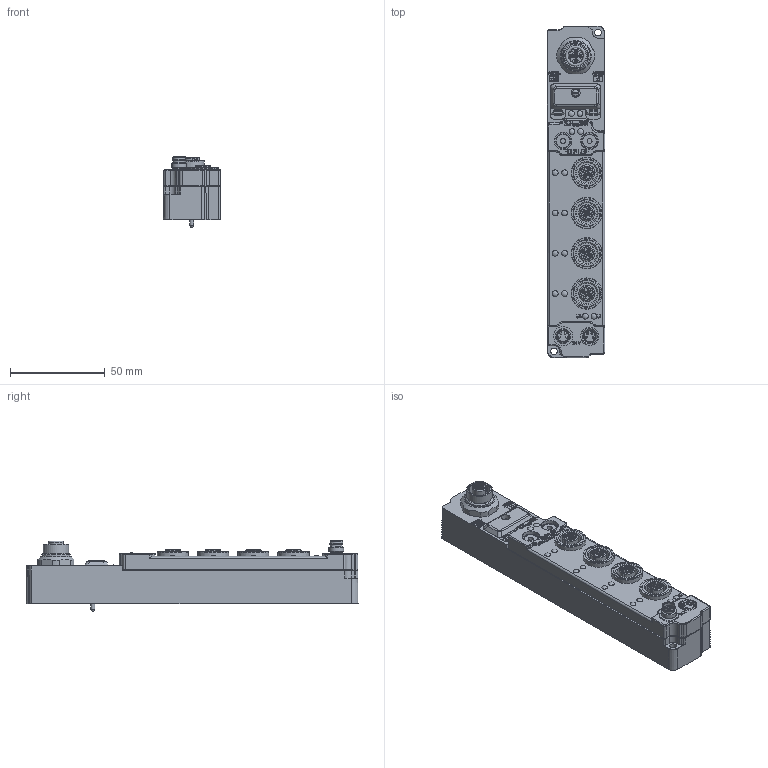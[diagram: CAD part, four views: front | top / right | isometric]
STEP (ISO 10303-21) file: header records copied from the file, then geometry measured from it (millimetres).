
FILE_DESCRIPTION((''),'2;1');
FILE_NAME('C:\TurckZip\SDPL-0404D-0004.stp','2011-07-05T11:16:34',('IKOROL'),(''),'Autodesk Inventor 2010','Autodesk Inventor 2010','');
FILE_SCHEMA(('CONFIG_CONTROL_DESIGN'));
Length unit declared in the file: millimetre
Products named in the file (1): Part7
Bounding box: 30.3 x 175.3 x 37.26 mm (x, y, z)
Volume: 90435.5 mm3; surface area: 47220.4 mm2
Topology: 25 solids, 25 shells, 1898 faces, 4652 edges, 2988 vertices
Faces by surface type: plane 867, cylinder 601, bspline 209, cone 155, torus 46, sphere 20
Full cylindrical faces by diameter (mm): 0.8 x8, 1 x8, 1.1 x25, 1.2 x4, 1.3 x5, 1.4 x4, 1.5 x31, 1.55 x5, 1.6 x9, 1.7 x19, 1.8 x5, 2.1 x1, 2.184 x2, 2.6 x2, 2.8 x14, 3 x15, 3.05 x28, 3.2 x1, 3.5 x4, 4.6 x1, 5.7 x3, 6.031 x1, 6.3 x1, 6.4 x2, 6.45 x1, 6.799 x1, 6.95 x1, 7 x1, 7.2 x2, 7.5 x3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
Entity records: 58343 total; most frequent: CARTESIAN_POINT 13820, DIRECTION 8722, ORIENTED_EDGE 8136, EDGE_CURVE 4068, AXIS2_PLACEMENT_3D 3294, VERTEX_POINT 2870, EDGE_LOOP 2664, VECTOR 2134
